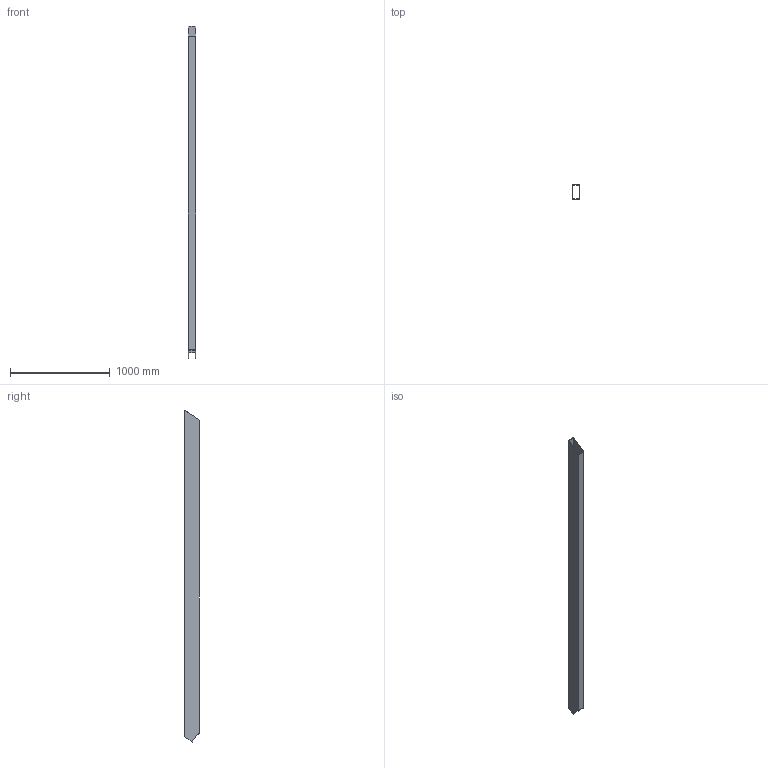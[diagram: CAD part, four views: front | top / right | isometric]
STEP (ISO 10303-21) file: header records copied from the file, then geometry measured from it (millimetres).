
FILE_DESCRIPTION(('Open CASCADE Model'),'2;1');
FILE_NAME('Open CASCADE Shape Model','2026-10-15T15:10:07',('Author'),( 'Open CASCADE'),'Open CASCADE STEP processor 8.0','Open CASCADE 8.0' ,'Unknown');
FILE_SCHEMA(('AUTOMOTIVE_DESIGN { 1 0 10303 214 1 1 1 1 }'));
Length unit declared in the file: millimetre
Products named in the file (1): RHS150x75x5_L3356803_CUTb7de3a_P05_DESEMBARCO_FINAL_JUNTA_10 191
Bounding box: 75 x 150 x 3328.02 mm (x, y, z)
Volume: 6941608 mm3; surface area: 2782345.5 mm2
Topology: 1 solids, 1 shells, 15 faces, 42 edges, 28 vertices
Faces by surface type: plane 15
Entity records: 972 total; most frequent: CARTESIAN_POINT 234, DIRECTION 94, ORIENTED_EDGE 84, PCURVE 84, DEFINITIONAL_REPRESENTATION 84, B_SPLINE_CURVE_WITH_KNOTS 64, LINE 62, VECTOR 62
